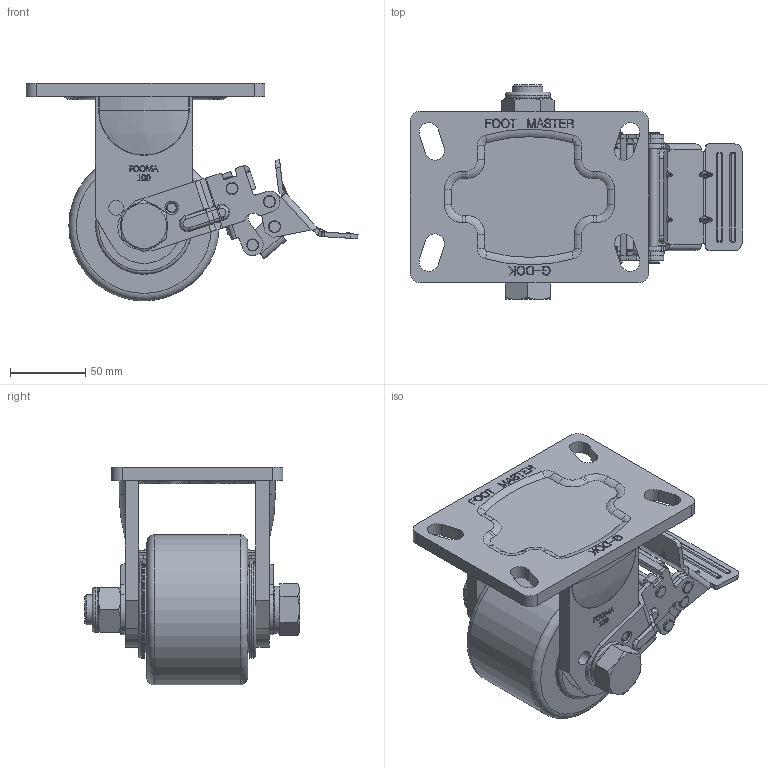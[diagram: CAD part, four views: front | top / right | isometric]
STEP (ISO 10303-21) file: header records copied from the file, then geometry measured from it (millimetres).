
FILE_DESCRIPTION(/* description */ (''),/* implementation_level */ '2;1');
FILE_NAME(/* name */ 'C:\Users\GR-DT-1-010\Desktop\GF-MCD\GF-100-MCD\step파일\GF-100-BRF-MCD.stp',/* time_stamp */ '2019-08-29T19:01:03+09:00',/* author */ ('GR-DT-1-010'),/* organization */ (''),/* preprocessor_version */ 'ST-DEVELOPER v16.13',/* originating_system */ 'Autodesk Inventor 2018',/* authorisation */ '');
FILE_SCHEMA (('AUTOMOTIVE_DESIGN { 1 0 10303 214 3 1 1 }'));
Length unit declared in the file: millimetre
Products named in the file (1): GF-100-BRF-MCD
Bounding box: 220.92 x 143 x 145 mm (x, y, z)
Volume: 929121.8 mm3; surface area: 161147 mm2
Topology: 9 solids, 9 shells, 1604 faces, 4222 edges, 2684 vertices
Faces by surface type: plane 540, bspline 530, cylinder 409, torus 87, cone 22, sphere 16
Full cylindrical faces by diameter (mm): 4 x4, 6 x4, 6.2 x18, 7 x2, 8 x8, 9.7 x2, 10 x4, 20 x3, 20.2 x2, 25 x2, 30 x1, 57 x2, 64.519 x2, 100 x1
Entity records: 57624 total; most frequent: CARTESIAN_POINT 21404, ORIENTED_EDGE 8106, DIRECTION 6342, EDGE_CURVE 4050, VERTEX_POINT 2637, AXIS2_PLACEMENT_3D 2171, LINE 2000, VECTOR 2000
